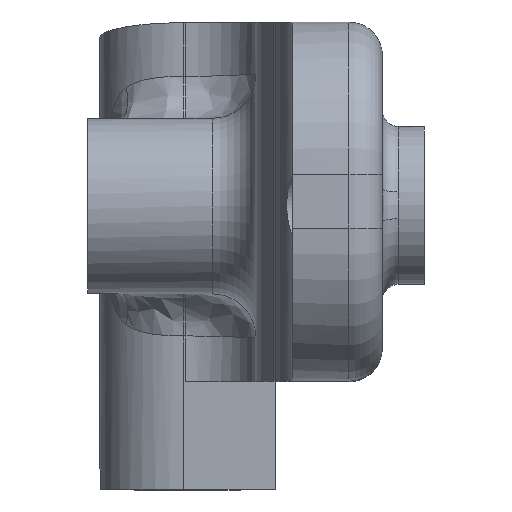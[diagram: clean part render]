
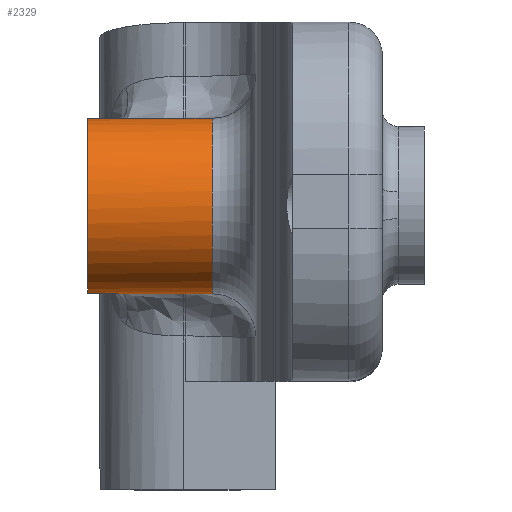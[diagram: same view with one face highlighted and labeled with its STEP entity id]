
A CAD part, top view. The second image highlights one B-rep face of the part: STEP entity #2329.
In plain terms, the highlighted cylindrical face has radius 5 mm (diameter 10 mm), a partial arc.
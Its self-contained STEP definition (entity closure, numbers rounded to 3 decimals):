
#2204=CARTESIAN_POINT('',(5.816,490.,-56.));
#2205=DIRECTION('',(-1.,-0.,0.));
#2206=DIRECTION('',(0.,-1.,0.));
#2207=AXIS2_PLACEMENT_3D('',#2204,#2205,#2206);
#2208=CYLINDRICAL_SURFACE('',#2207,5.);
#2209=CARTESIAN_POINT('',(-5.684,485.,-56.));
#2210=VERTEX_POINT('',#2209);
#2211=CARTESIAN_POINT('',(1.4,485.,-56.));
#2212=VERTEX_POINT('',#2211);
#2213=CARTESIAN_POINT('',(-5.684,485.,-56.));
#2214=DIRECTION('',(1.,0.,-0.));
#2215=VECTOR('',#2214,7.084);
#2216=LINE('',#2213,#2215);
#2217=EDGE_CURVE('',#2210,#2212,#2216,.T.);
#2218=ORIENTED_EDGE('',*,*,#2217,.T.);
#2219=CARTESIAN_POINT('',(1.416,485.002,-55.854));
#2220=VERTEX_POINT('',#2219);
#2221=CARTESIAN_POINT('',(-0.084,485.073,-56.854));
#2222=CARTESIAN_POINT('',(0.016,485.073,-56.854));
#2223=CARTESIAN_POINT('',(0.114,485.072,-56.847));
#2224=CARTESIAN_POINT('',(0.211,485.07,-56.834));
#2225=CARTESIAN_POINT('',(0.307,485.068,-56.821));
#2226=CARTESIAN_POINT('',(0.402,485.065,-56.802));
#2227=CARTESIAN_POINT('',(0.492,485.061,-56.777));
#2228=CARTESIAN_POINT('',(0.672,485.053,-56.727));
#2229=CARTESIAN_POINT('',(0.839,485.042,-56.653));
#2230=CARTESIAN_POINT('',(0.977,485.032,-56.561));
#2231=CARTESIAN_POINT('',(1.046,485.026,-56.515));
#2232=CARTESIAN_POINT('',(1.109,485.021,-56.463));
#2233=CARTESIAN_POINT('',(1.164,485.017,-56.409));
#2234=CARTESIAN_POINT('',(1.218,485.012,-56.355));
#2235=CARTESIAN_POINT('',(1.264,485.008,-56.297));
#2236=CARTESIAN_POINT('',(1.302,485.006,-56.237));
#2237=CARTESIAN_POINT('',(1.34,485.003,-56.176));
#2238=CARTESIAN_POINT('',(1.369,485.001,-56.113));
#2239=CARTESIAN_POINT('',(1.388,485.,-56.049));
#2240=CARTESIAN_POINT('',(1.407,485.,-55.985));
#2241=CARTESIAN_POINT('',(1.416,485.,-55.92));
#2242=CARTESIAN_POINT('',(1.416,485.002,-55.854));
#2243=B_SPLINE_CURVE_WITH_KNOTS('',3,(#2221,#2222,#2223,#2224,#2225,#2226,#2227,#2228,#2229,#2230,#2231,#2232,#2233,#2234,#2235,#2236,#2237,#2238,#2239,#2240,#2241,#2242),.UNSPECIFIED.,.F.,.F.,(4,3,3,3,3,3,3,4),(0.,0.,0.001,0.001,0.001,0.002,0.002,0.002),.UNSPECIFIED.);
#2244=EDGE_CURVE('',#2212,#2220,#2243,.T.);
#2245=ORIENTED_EDGE('',*,*,#2244,.T.);
#2246=CARTESIAN_POINT('',(1.416,494.998,-55.854));
#2247=VERTEX_POINT('',#2246);
#2248=CARTESIAN_POINT('',(1.416,490.,-56.));
#2249=DIRECTION('',(-1.,-0.,-0.));
#2250=DIRECTION('',(-0.,1.,0.));
#2251=AXIS2_PLACEMENT_3D('',#2248,#2249,#2250);
#2252=CIRCLE('',#2251,5.);
#2253=EDGE_CURVE('',#2220,#2247,#2252,.T.);
#2254=ORIENTED_EDGE('',*,*,#2253,.T.);
#2255=CARTESIAN_POINT('',(-0.084,494.927,-56.854));
#2256=VERTEX_POINT('',#2255);
#2257=CARTESIAN_POINT('',(1.416,494.998,-55.854));
#2258=CARTESIAN_POINT('',(1.416,495.002,-55.986));
#2259=CARTESIAN_POINT('',(1.376,495.,-56.117));
#2260=CARTESIAN_POINT('',(1.301,494.994,-56.238));
#2261=CARTESIAN_POINT('',(1.226,494.989,-56.358));
#2262=CARTESIAN_POINT('',(1.115,494.979,-56.469));
#2263=CARTESIAN_POINT('',(0.977,494.968,-56.561));
#2264=CARTESIAN_POINT('',(0.908,494.963,-56.607));
#2265=CARTESIAN_POINT('',(0.831,494.958,-56.649));
#2266=CARTESIAN_POINT('',(0.749,494.953,-56.685));
#2267=CARTESIAN_POINT('',(0.668,494.948,-56.722));
#2268=CARTESIAN_POINT('',(0.582,494.943,-56.752));
#2269=CARTESIAN_POINT('',(0.491,494.939,-56.777));
#2270=CARTESIAN_POINT('',(0.4,494.935,-56.802));
#2271=CARTESIAN_POINT('',(0.305,494.932,-56.822));
#2272=CARTESIAN_POINT('',(0.209,494.93,-56.834));
#2273=CARTESIAN_POINT('',(0.113,494.928,-56.847));
#2274=CARTESIAN_POINT('',(0.016,494.927,-56.854));
#2275=CARTESIAN_POINT('',(-0.084,494.927,-56.854));
#2276=B_SPLINE_CURVE_WITH_KNOTS('',3,(#2257,#2258,#2259,#2260,#2261,#2262,#2263,#2264,#2265,#2266,#2267,#2268,#2269,#2270,#2271,#2272,#2273,#2274,#2275),.UNSPECIFIED.,.F.,.F.,(4,3,3,3,3,3,4),(0.,0.001,0.001,0.001,0.002,0.002,0.002),.UNSPECIFIED.);
#2277=EDGE_CURVE('',#2247,#2256,#2276,.T.);
#2278=ORIENTED_EDGE('',*,*,#2277,.T.);
#2279=CARTESIAN_POINT('',(-0.2,494.927,-56.854));
#2280=VERTEX_POINT('',#2279);
#2281=CARTESIAN_POINT('',(-0.084,494.927,-56.854));
#2282=DIRECTION('',(-1.,-0.,0.));
#2283=VECTOR('',#2282,0.116);
#2284=LINE('',#2281,#2283);
#2285=EDGE_CURVE('',#2256,#2280,#2284,.T.);
#2286=ORIENTED_EDGE('',*,*,#2285,.T.);
#2287=CARTESIAN_POINT('',(-5.184,494.507,-58.164));
#2288=VERTEX_POINT('',#2287);
#2289=CARTESIAN_POINT('',(-0.2,494.927,-56.854));
#2290=CARTESIAN_POINT('',(-0.666,494.927,-56.854));
#2291=CARTESIAN_POINT('',(-1.124,494.922,-56.883));
#2292=CARTESIAN_POINT('',(-1.575,494.911,-56.941));
#2293=CARTESIAN_POINT('',(-1.801,494.905,-56.97));
#2294=CARTESIAN_POINT('',(-2.025,494.898,-57.006));
#2295=CARTESIAN_POINT('',(-2.247,494.889,-57.049));
#2296=CARTESIAN_POINT('',(-2.469,494.879,-57.092));
#2297=CARTESIAN_POINT('',(-2.689,494.868,-57.143));
#2298=CARTESIAN_POINT('',(-2.903,494.854,-57.199));
#2299=CARTESIAN_POINT('',(-3.331,494.826,-57.313));
#2300=CARTESIAN_POINT('',(-3.737,494.788,-57.452));
#2301=CARTESIAN_POINT('',(-4.122,494.732,-57.616));
#2302=CARTESIAN_POINT('',(-4.315,494.704,-57.698));
#2303=CARTESIAN_POINT('',(-4.501,494.671,-57.785));
#2304=CARTESIAN_POINT('',(-4.678,494.634,-57.877));
#2305=CARTESIAN_POINT('',(-4.855,494.597,-57.969));
#2306=CARTESIAN_POINT('',(-5.024,494.555,-58.064));
#2307=CARTESIAN_POINT('',(-5.184,494.507,-58.164));
#2308=B_SPLINE_CURVE_WITH_KNOTS('',3,(#2289,#2290,#2291,#2292,#2293,#2294,#2295,#2296,#2297,#2298,#2299,#2300,#2301,#2302,#2303,#2304,#2305,#2306,#2307),.UNSPECIFIED.,.F.,.F.,(4,3,3,3,3,3,4),(0.023,0.025,0.025,0.026,0.027,0.028,0.029),.UNSPECIFIED.);
#2309=EDGE_CURVE('',#2280,#2288,#2308,.T.);
#2310=ORIENTED_EDGE('',*,*,#2309,.T.);
#2311=CARTESIAN_POINT('',(-5.684,494.51,-58.159));
#2312=VERTEX_POINT('',#2311);
#2313=CARTESIAN_POINT('',(-5.184,494.507,-58.164));
#2314=CARTESIAN_POINT('',(-5.35,494.517,-58.144));
#2315=CARTESIAN_POINT('',(-5.517,494.517,-58.145));
#2316=CARTESIAN_POINT('',(-5.684,494.51,-58.159));
#2317=B_SPLINE_CURVE_WITH_KNOTS('',3,(#2313,#2314,#2315,#2316),.UNSPECIFIED.,.F.,.F.,(4,4),(0.,0.001),.UNSPECIFIED.);
#2318=EDGE_CURVE('',#2288,#2312,#2317,.T.);
#2319=ORIENTED_EDGE('',*,*,#2318,.T.);
#2320=CARTESIAN_POINT('',(-5.684,490.,-56.));
#2321=DIRECTION('',(-1.,-0.,0.));
#2322=DIRECTION('',(0.,-1.,0.));
#2323=AXIS2_PLACEMENT_3D('',#2320,#2321,#2322);
#2324=CIRCLE('',#2323,5.);
#2325=EDGE_CURVE('',#2210,#2312,#2324,.T.);
#2326=ORIENTED_EDGE('',*,*,#2325,.F.);
#2327=EDGE_LOOP('',(#2218,#2245,#2254,#2278,#2286,#2310,#2319,#2326));
#2328=FACE_BOUND('',#2327,.T.);
#2329=ADVANCED_FACE('',(#2328),#2208,.T.);
